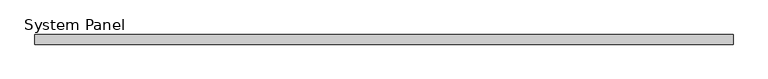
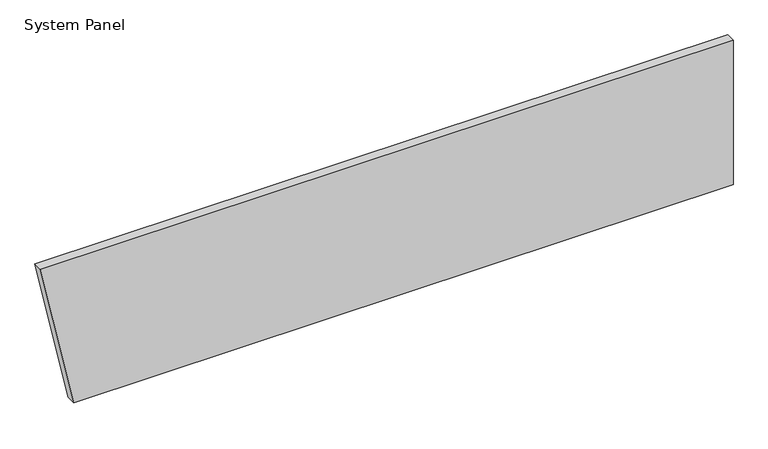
"""IFC4 building model written with IfcOpenShell, lengths in millimetres: plate geometry, System Panel : Equitilt 75mm Horizontal - Plain RHEA - EPS-FR."""

import ifcopenshell
import ifcopenshell.guid

model = None  # the IFC model being written
_history = None  # IfcOwnerHistory: only IFC2X3 demands one
_inside = {}  # id of a spatial element -> (the spatial element, [elements in it])
_under = {}  # id of a project, library or spatial element -> (it, [spatial elements below it])
_declared = {}  # id of a project -> (the project, [libraries it declares])
_typed = {}  # id of a type object -> (the type object, [elements of that type])
_made_of = {}  # id of a material, layer set ... -> (it, [elements and type objects made of it])


def new_model(schema):
    """Start an empty IFC model of exactly this schema.

    Asked for "IFC4X3", IfcOpenShell would pick the latest addendum, in which some entities
    have other attributes; the version numbers below select the first issue.
    IFC2X3 requires an IfcOwnerHistory on every rooted entity: one is made here for all.
    """
    global model, _history
    if schema == "IFC4X3":
        model = ifcopenshell.file(schema_version=(4, 3, 0, 0))
    else:
        model = ifcopenshell.file(schema=schema)
    _inside.clear()
    _under.clear()
    _declared.clear()
    _typed.clear()
    _made_of.clear()
    _history = None
    if model.schema == "IFC2X3":
        org = make("IfcOrganization", Name="unknown")
        user = make(
            "IfcPersonAndOrganization",
            ThePerson=make("IfcPerson", FamilyName="unknown"),
            TheOrganization=org,
        )
        app = make(
            "IfcApplication",
            ApplicationDeveloper=org,
            Version="unknown",
            ApplicationFullName="unknown",
            ApplicationIdentifier="unknown",
        )
        _history = make(
            "IfcOwnerHistory",
            OwningUser=user,
            OwningApplication=app,
            ChangeAction="ADDED",
            CreationDate=0,
        )
    return model


def make(cls, **values):
    """One entity of the class cls with the attributes given. An attribute that is None is left unset."""
    return model.create_entity(
        cls, **{name: value for name, value in values.items() if value is not None}
    )


def rooted(cls, **values):
    """An entity with a GlobalId (a new one), such as an element, a storey or a relation."""
    return make(cls, GlobalId=ifcopenshell.guid.new(), OwnerHistory=_history, **values)


def si_unit(unit_type, name, prefix=None):
    """IfcSIUnit, for example si_unit("LENGTHUNIT", "METRE", prefix="MILLI")."""
    return make("IfcSIUnit", UnitType=unit_type, Prefix=prefix, Name=name)


def assignment(units):
    """IfcUnitAssignment: the units of a project."""
    return None if units is None else make("IfcUnitAssignment", Units=units)


def point(xyz):
    """IfcCartesianPoint."""
    return None if xyz is None else make("IfcCartesianPoint", Coordinates=xyz)


def direction(xyz):
    """IfcDirection."""
    return None if xyz is None else make("IfcDirection", DirectionRatios=xyz)


def frame(location, z_axis=None, x_axis=None):
    """IfcAxis2Placement3D, a coordinate frame: its origin and axes. An axis left out is left unset."""
    return make(
        "IfcAxis2Placement3D",
        Location=point(location),
        Axis=direction(z_axis),
        RefDirection=direction(x_axis),
    )


def origin():
    """The frame at (0, 0, 0) with its axes left unset."""
    return frame((0.0, 0.0, 0.0))


def place(relative_to, where):
    """IfcLocalPlacement: puts the frame where relative to a parent placement (None: the world)."""
    return make(
        "IfcLocalPlacement", PlacementRelTo=relative_to, RelativePlacement=where
    )


def context(
    kind, dimensions, precision=None, world=None, true_north=None, identifier=None
):
    """IfcGeometricRepresentationContext, for example the 3D "Model" context."""
    return make(
        "IfcGeometricRepresentationContext",
        ContextIdentifier=identifier,
        ContextType=kind,
        CoordinateSpaceDimension=dimensions,
        Precision=precision,
        WorldCoordinateSystem=world,
        TrueNorth=true_north,
    )


def project(units=None, contexts=None):
    """IfcProject with its units and contexts."""
    return rooted(
        "IfcProject",
        Name="project",
        RepresentationContexts=contexts,
        UnitsInContext=assignment(units),
    )


def spatial(cls, under=None, at=None, **own):
    """A site, building, storey or space (cls), placed at a placement, below another one or the project."""
    s = rooted(cls, ObjectPlacement=at, **own)
    if under is not None:
        _under.setdefault(under.id(), (under, []))[1].append(s)
    return s


def polyline(points):
    """IfcPolyline through the points."""
    return make("IfcPolyline", Points=[point(p) for p in points])


def outline(outer, holes=None, kind="AREA"):
    """IfcArbitraryClosedProfileDef: a profile drawn as a closed curve; with holes, ...WithVoids."""
    if holes is None:
        return make("IfcArbitraryClosedProfileDef", ProfileType=kind, OuterCurve=outer)
    return make(
        "IfcArbitraryProfileDefWithVoids",
        ProfileType=kind,
        OuterCurve=outer,
        InnerCurves=holes,
    )


def extrude(swept, where, along, depth):
    """IfcExtrudedAreaSolid: the profile swept, set in the frame where, extruded along a direction by depth."""
    return make(
        "IfcExtrudedAreaSolid",
        SweptArea=swept,
        Position=where,
        ExtrudedDirection=direction(along),
        Depth=depth,
    )


def shape(context_of_items, identifier, shape_type, items):
    """IfcShapeRepresentation: the items that make up one representation, for example the "Body"."""
    return make(
        "IfcShapeRepresentation",
        ContextOfItems=context_of_items,
        RepresentationIdentifier=identifier,
        RepresentationType=shape_type,
        Items=items,
    )


def source(mapping_origin, context_of_items, identifier, shape_type, items):
    """IfcRepresentationMap: a shape defined once, which mapped items show again and again."""
    return make(
        "IfcRepresentationMap",
        MappingOrigin=mapping_origin,
        MappedRepresentation=shape(context_of_items, identifier, shape_type, items),
    )


def transform(
    local_origin,
    x_axis=None,
    y_axis=None,
    z_axis=None,
    scale=None,
    scale2=None,
    scale3=None,
    uniform=True,
):
    """IfcCartesianTransformationOperator3D, or its non-uniform kind. x_axis, y_axis, z_axis: its Axis1, 2, 3."""
    if uniform:
        return make(
            "IfcCartesianTransformationOperator3D",
            Axis1=direction(x_axis),
            Axis2=direction(y_axis),
            LocalOrigin=point(local_origin),
            Scale=scale,
            Axis3=direction(z_axis),
        )
    return make(
        "IfcCartesianTransformationOperator3DnonUniform",
        Axis1=direction(x_axis),
        Axis2=direction(y_axis),
        LocalOrigin=point(local_origin),
        Scale=scale,
        Axis3=direction(z_axis),
        Scale2=scale2,
        Scale3=scale3,
    )


def mapped(mapping_source, mapping_target):
    """IfcMappedItem: shows the shape of a source again, moved by a transform."""
    return make(
        "IfcMappedItem", MappingSource=mapping_source, MappingTarget=mapping_target
    )


def made_of(thing, what):
    """Note that an element or type object is made of a material, layer set ...; save() writes the relation."""
    if what is not None:
        _made_of.setdefault(what.id(), (what, []))[1].append(thing)
    return thing


def element(
    cls,
    number,
    at=None,
    inside=None,
    cuts=None,
    type_object=None,
    material=None,
    context=None,
    identifier="Body",
    shape_type=None,
    held_by="IfcProductDefinitionShape",
    body=None,
    shapes=None,
    **own,
):
    """One element of the class cls, such as IfcWall. Its Tag is "e" and its number.

    at: its placement. inside: the storey or other place that contains it. cuts: it is an
    opening in that element (IfcRelVoidsElement). A single representation is given by context,
    identifier, shape_type and body (its items); several are given by shapes. held_by: the class
    of the entity that holds the representations. save() writes the other relations.
    """
    e = rooted(cls, Tag="e%d" % number, ObjectPlacement=at, **own)
    if body is not None:
        shapes = [shape(context, identifier, shape_type, body)]
    if shapes is not None:
        e.Representation = make(held_by, Representations=shapes)
    if inside is not None:
        _inside.setdefault(inside.id(), (inside, []))[1].append(e)
    if cuts is not None:
        rooted(
            "IfcRelVoidsElement", RelatingBuildingElement=cuts, RelatedOpeningElement=e
        )
    if type_object is not None:
        _typed.setdefault(type_object.id(), (type_object, []))[1].append(e)
    return made_of(e, material)


def aggregate(whole, parts):
    """IfcRelAggregates: a whole, such as a stair, and the parts it consists of."""
    return rooted("IfcRelAggregates", RelatingObject=whole, RelatedObjects=parts)


def save(model, path):
    """Write the relations noted so far, then the file.

    IfcRelAggregates (storeys below a building ...), IfcRelContainedInSpatialStructure (elements
    in a storey), IfcRelDefinesByType, IfcRelAssociatesMaterial and IfcRelDeclares: one each for
    every whole, place, type object, material and project.
    """
    for whole, parts in _under.values():
        aggregate(whole, parts)
    for where, things in _inside.values():
        rooted(
            "IfcRelContainedInSpatialStructure",
            RelatedElements=things,
            RelatingStructure=where,
        )
    for kind, things in _typed.values():
        rooted("IfcRelDefinesByType", RelatedObjects=things, RelatingType=kind)
    for what, things in _made_of.values():
        rooted("IfcRelAssociatesMaterial", RelatedObjects=things, RelatingMaterial=what)
    for by, libraries in _declared.values():
        rooted("IfcRelDeclares", RelatingContext=by, RelatedDefinitions=libraries)
    model.write(path)


def system_panel_dae109d1(model_context):
    return source(origin(), model_context, "Body", "SweptSolid", [
        extrude(outline(polyline([(0.0, -2459.5641691), (0.0, 2720.4358309), (1200.0, 2720.4358309), (1200.0, -2720.4358309), (0.0, -2459.5641691)])), frame((0.0, -75.0, 0.0), z_axis=(0.0, 1.0, 0.0), x_axis=(0.0, 0.0, 1.0)), (0.0, 0.0, 1.0), 75.0),
    ])


if __name__ == "__main__":
    model = new_model("IFC4")
    model_context = context("Model", 3, world=origin())
    ifc_project = project(units=[si_unit("LENGTHUNIT", "METRE", prefix="MILLI")], contexts=[model_context])
    site = spatial("IfcSite", under=ifc_project)
    building = spatial("IfcBuilding", under=site)
    placement = place(None, origin())
    system_panel_shape = system_panel_dae109d1(model_context)
    element("IfcPlate", 1, ObjectType="System Panel : Equitilt 75mm Horizontal - Plain RHEA - EPS-FR", at=placement, inside=building, context=model_context, shape_type="MappedRepresentation", body=[
        mapped(system_panel_shape, transform((0.0, 0.0, 0.0), x_axis=(1.0, 0.0, 0.0), y_axis=(0.0, 1.0, 0.0), z_axis=(0.0, 0.0, 1.0))),
    ])
    save(model, "model.ifc")
